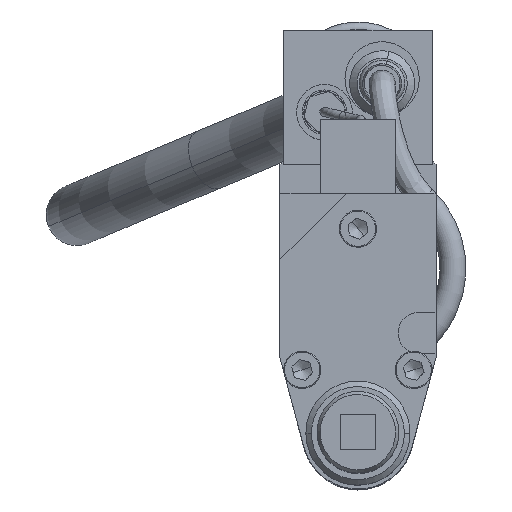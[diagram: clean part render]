
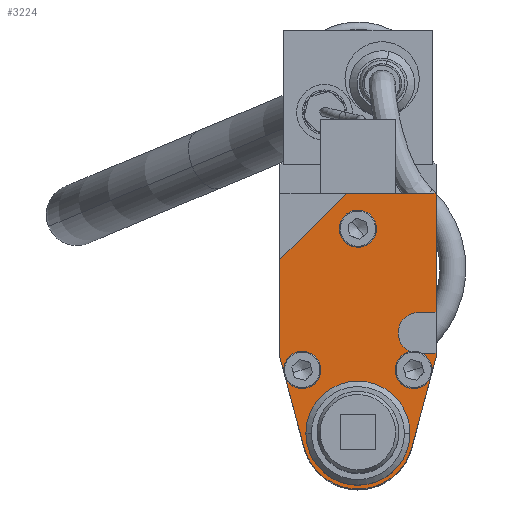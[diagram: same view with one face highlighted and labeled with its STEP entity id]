
A CAD part, top view. The second image highlights one B-rep face of the part: STEP entity #3224.
In plain terms, the highlighted planar face has unit normal (0, 0, 1).
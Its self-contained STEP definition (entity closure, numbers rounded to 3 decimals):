
#3033=CARTESIAN_POINT('Axis2P3D Location',(-15.,-26.54,353.1)) ;
#3037=CARTESIAN_POINT('Vertex',(-11.965,-28.198,353.1)) ;
#3039=CARTESIAN_POINT('Vertex',(-18.035,-24.882,353.1)) ;
#3059=CARTESIAN_POINT('Axis2P3D Location',(-15.,-26.54,353.1)) ;
#3071=CARTESIAN_POINT('Axis2P3D Location',(0.,-43.54,353.1)) ;
#3076=CARTESIAN_POINT('Line Origine',(18.65,-22.04,353.1)) ;
#3080=CARTESIAN_POINT('Vertex',(16.3,-22.04,353.1)) ;
#3082=CARTESIAN_POINT('Vertex',(21.,-22.04,353.1)) ;
#3085=CARTESIAN_POINT('Axis2P3D Location',(16.3,-16.54,353.1)) ;
#3089=CARTESIAN_POINT('Vertex',(16.3,-11.04,353.1)) ;
#3092=CARTESIAN_POINT('Line Origine',(18.65,-11.04,353.1)) ;
#3096=CARTESIAN_POINT('Vertex',(21.,-11.04,353.1)) ;
#3099=CARTESIAN_POINT('Line Origine',(21.,5.01,353.1)) ;
#3103=CARTESIAN_POINT('Vertex',(21.,21.06,353.1)) ;
#3106=CARTESIAN_POINT('Line Origine',(9.,21.06,353.1)) ;
#3110=CARTESIAN_POINT('Vertex',(-3.,21.06,353.1)) ;
#3113=CARTESIAN_POINT('Line Origine',(-12.,12.06,353.1)) ;
#3117=CARTESIAN_POINT('Vertex',(-21.,3.06,353.1)) ;
#3120=CARTESIAN_POINT('Line Origine',(-21.,-10.031,353.1)) ;
#3124=CARTESIAN_POINT('Vertex',(-21.,-23.122,353.1)) ;
#3127=CARTESIAN_POINT('Line Origine',(-17.744,-35.272,353.1)) ;
#3131=CARTESIAN_POINT('Vertex',(-14.489,-47.422,353.1)) ;
#3134=CARTESIAN_POINT('Axis2P3D Location',(0.,-43.54,353.1)) ;
#3138=CARTESIAN_POINT('Vertex',(14.489,-47.422,353.1)) ;
#3141=CARTESIAN_POINT('Line Origine',(17.744,-35.272,353.1)) ;
#3145=CARTESIAN_POINT('Vertex',(21.,-23.122,353.1)) ;
#3148=CARTESIAN_POINT('Line Origine',(21.,-22.581,353.1)) ;
#3170=CARTESIAN_POINT('Axis2P3D Location',(15.,-26.54,353.1)) ;
#3174=CARTESIAN_POINT('Vertex',(11.965,-24.882,353.1)) ;
#3176=CARTESIAN_POINT('Vertex',(18.035,-28.198,353.1)) ;
#3179=CARTESIAN_POINT('Axis2P3D Location',(15.,-26.54,353.1)) ;
#3188=CARTESIAN_POINT('Axis2P3D Location',(0.,11.46,353.1)) ;
#3192=CARTESIAN_POINT('Vertex',(-3.035,13.118,353.1)) ;
#3194=CARTESIAN_POINT('Vertex',(3.035,9.802,353.1)) ;
#3197=CARTESIAN_POINT('Axis2P3D Location',(0.,11.46,353.1)) ;
#3206=CARTESIAN_POINT('Axis2P3D Location',(0.,-43.54,353.1)) ;
#3210=CARTESIAN_POINT('Vertex',(14.,-43.54,353.1)) ;
#3212=CARTESIAN_POINT('Vertex',(-14.,-43.54,353.1)) ;
#3215=CARTESIAN_POINT('Axis2P3D Location',(0.,-43.54,353.1)) ;
#3034=DIRECTION('Axis2P3D Direction',(0.,0.,1.)) ;
#3060=DIRECTION('Axis2P3D Direction',(0.,0.,1.)) ;
#3072=DIRECTION('Axis2P3D Direction',(0.,0.,1.)) ;
#3073=DIRECTION('Axis2P3D XDirection',(1.,0.,0.)) ;
#3077=DIRECTION('Vector Direction',(1.,0.,0.)) ;
#3086=DIRECTION('Axis2P3D Direction',(0.,0.,1.)) ;
#3093=DIRECTION('Vector Direction',(-1.,0.,0.)) ;
#3100=DIRECTION('Vector Direction',(0.,-1.,0.)) ;
#3107=DIRECTION('Vector Direction',(1.,0.,0.)) ;
#3114=DIRECTION('Vector Direction',(-0.707,-0.707,0.)) ;
#3121=DIRECTION('Vector Direction',(0.,1.,0.)) ;
#3128=DIRECTION('Vector Direction',(-0.259,0.966,0.)) ;
#3135=DIRECTION('Axis2P3D Direction',(0.,0.,1.)) ;
#3142=DIRECTION('Vector Direction',(-0.259,-0.966,0.)) ;
#3149=DIRECTION('Vector Direction',(0.,-1.,0.)) ;
#3171=DIRECTION('Axis2P3D Direction',(0.,0.,1.)) ;
#3180=DIRECTION('Axis2P3D Direction',(0.,0.,1.)) ;
#3189=DIRECTION('Axis2P3D Direction',(0.,0.,1.)) ;
#3198=DIRECTION('Axis2P3D Direction',(0.,0.,1.)) ;
#3207=DIRECTION('Axis2P3D Direction',(0.,0.,1.)) ;
#3216=DIRECTION('Axis2P3D Direction',(0.,0.,1.)) ;
#3035=AXIS2_PLACEMENT_3D('Circle Axis2P3D',#3033,#3034,$) ;
#3061=AXIS2_PLACEMENT_3D('Circle Axis2P3D',#3059,#3060,$) ;
#3074=AXIS2_PLACEMENT_3D('Plane Axis2P3D',#3071,#3072,#3073) ;
#3087=AXIS2_PLACEMENT_3D('Circle Axis2P3D',#3085,#3086,$) ;
#3136=AXIS2_PLACEMENT_3D('Circle Axis2P3D',#3134,#3135,$) ;
#3172=AXIS2_PLACEMENT_3D('Circle Axis2P3D',#3170,#3171,$) ;
#3181=AXIS2_PLACEMENT_3D('Circle Axis2P3D',#3179,#3180,$) ;
#3190=AXIS2_PLACEMENT_3D('Circle Axis2P3D',#3188,#3189,$) ;
#3199=AXIS2_PLACEMENT_3D('Circle Axis2P3D',#3197,#3198,$) ;
#3208=AXIS2_PLACEMENT_3D('Circle Axis2P3D',#3206,#3207,$) ;
#3217=AXIS2_PLACEMENT_3D('Circle Axis2P3D',#3215,#3216,$) ;
#3154=ORIENTED_EDGE('',*,*,#3084,.F.) ;
#3155=ORIENTED_EDGE('',*,*,#3091,.F.) ;
#3156=ORIENTED_EDGE('',*,*,#3098,.F.) ;
#3157=ORIENTED_EDGE('',*,*,#3105,.F.) ;
#3158=ORIENTED_EDGE('',*,*,#3112,.F.) ;
#3159=ORIENTED_EDGE('',*,*,#3119,.T.) ;
#3160=ORIENTED_EDGE('',*,*,#3126,.F.) ;
#3161=ORIENTED_EDGE('',*,*,#3133,.F.) ;
#3162=ORIENTED_EDGE('',*,*,#3140,.F.) ;
#3163=ORIENTED_EDGE('',*,*,#3147,.F.) ;
#3164=ORIENTED_EDGE('',*,*,#3152,.F.) ;
#3167=ORIENTED_EDGE('',*,*,#3063,.F.) ;
#3168=ORIENTED_EDGE('',*,*,#3041,.F.) ;
#3185=ORIENTED_EDGE('',*,*,#3178,.F.) ;
#3186=ORIENTED_EDGE('',*,*,#3183,.F.) ;
#3203=ORIENTED_EDGE('',*,*,#3196,.F.) ;
#3204=ORIENTED_EDGE('',*,*,#3201,.F.) ;
#3221=ORIENTED_EDGE('',*,*,#3214,.F.) ;
#3222=ORIENTED_EDGE('',*,*,#3219,.F.) ;
#3169=FACE_BOUND('',#3166,.T.) ;
#3187=FACE_BOUND('',#3184,.T.) ;
#3205=FACE_BOUND('',#3202,.T.) ;
#3223=FACE_BOUND('',#3220,.T.) ;
#3078=VECTOR('Line Direction',#3077,1.) ;
#3094=VECTOR('Line Direction',#3093,1.) ;
#3101=VECTOR('Line Direction',#3100,1.) ;
#3108=VECTOR('Line Direction',#3107,1.) ;
#3115=VECTOR('Line Direction',#3114,1.) ;
#3122=VECTOR('Line Direction',#3121,1.) ;
#3129=VECTOR('Line Direction',#3128,1.) ;
#3143=VECTOR('Line Direction',#3142,1.) ;
#3150=VECTOR('Line Direction',#3149,1.) ;
#3224=ADVANCED_FACE('',(#3165,#3169,#3187,#3205,#3223),#3075,.T.) ;
#3036=CIRCLE('generated circle',#3035,3.459) ;
#3062=CIRCLE('generated circle',#3061,3.459) ;
#3088=CIRCLE('generated circle',#3087,5.5) ;
#3137=CIRCLE('generated circle',#3136,15.) ;
#3173=CIRCLE('generated circle',#3172,3.459) ;
#3182=CIRCLE('generated circle',#3181,3.459) ;
#3191=CIRCLE('generated circle',#3190,3.459) ;
#3200=CIRCLE('generated circle',#3199,3.459) ;
#3209=CIRCLE('generated circle',#3208,14.) ;
#3218=CIRCLE('generated circle',#3217,14.) ;
#3041=EDGE_CURVE('',#3038,#3040,#3036,.T.) ;
#3063=EDGE_CURVE('',#3040,#3038,#3062,.T.) ;
#3084=EDGE_CURVE('',#3081,#3083,#3079,.T.) ;
#3091=EDGE_CURVE('',#3090,#3081,#3088,.T.) ;
#3098=EDGE_CURVE('',#3097,#3090,#3095,.T.) ;
#3105=EDGE_CURVE('',#3104,#3097,#3102,.T.) ;
#3112=EDGE_CURVE('',#3111,#3104,#3109,.T.) ;
#3119=EDGE_CURVE('',#3111,#3118,#3116,.T.) ;
#3126=EDGE_CURVE('',#3125,#3118,#3123,.T.) ;
#3133=EDGE_CURVE('',#3132,#3125,#3130,.T.) ;
#3140=EDGE_CURVE('',#3139,#3132,#3137,.F.) ;
#3147=EDGE_CURVE('',#3146,#3139,#3144,.T.) ;
#3152=EDGE_CURVE('',#3083,#3146,#3151,.T.) ;
#3178=EDGE_CURVE('',#3175,#3177,#3173,.T.) ;
#3183=EDGE_CURVE('',#3177,#3175,#3182,.T.) ;
#3196=EDGE_CURVE('',#3193,#3195,#3191,.T.) ;
#3201=EDGE_CURVE('',#3195,#3193,#3200,.T.) ;
#3214=EDGE_CURVE('',#3211,#3213,#3209,.T.) ;
#3219=EDGE_CURVE('',#3213,#3211,#3218,.T.) ;
#3153=EDGE_LOOP('',(#3154,#3155,#3156,#3157,#3158,#3159,#3160,#3161,#3162,#3163,#3164)) ;
#3166=EDGE_LOOP('',(#3167,#3168)) ;
#3184=EDGE_LOOP('',(#3185,#3186)) ;
#3202=EDGE_LOOP('',(#3203,#3204)) ;
#3220=EDGE_LOOP('',(#3221,#3222)) ;
#3165=FACE_OUTER_BOUND('',#3153,.T.) ;
#3079=LINE('Line',#3076,#3078) ;
#3095=LINE('Line',#3092,#3094) ;
#3102=LINE('Line',#3099,#3101) ;
#3109=LINE('Line',#3106,#3108) ;
#3116=LINE('Line',#3113,#3115) ;
#3123=LINE('Line',#3120,#3122) ;
#3130=LINE('Line',#3127,#3129) ;
#3144=LINE('Line',#3141,#3143) ;
#3151=LINE('Line',#3148,#3150) ;
#3075=PLANE('Plane',#3074) ;
#3038=VERTEX_POINT('',#3037) ;
#3040=VERTEX_POINT('',#3039) ;
#3081=VERTEX_POINT('',#3080) ;
#3083=VERTEX_POINT('',#3082) ;
#3090=VERTEX_POINT('',#3089) ;
#3097=VERTEX_POINT('',#3096) ;
#3104=VERTEX_POINT('',#3103) ;
#3111=VERTEX_POINT('',#3110) ;
#3118=VERTEX_POINT('',#3117) ;
#3125=VERTEX_POINT('',#3124) ;
#3132=VERTEX_POINT('',#3131) ;
#3139=VERTEX_POINT('',#3138) ;
#3146=VERTEX_POINT('',#3145) ;
#3175=VERTEX_POINT('',#3174) ;
#3177=VERTEX_POINT('',#3176) ;
#3193=VERTEX_POINT('',#3192) ;
#3195=VERTEX_POINT('',#3194) ;
#3211=VERTEX_POINT('',#3210) ;
#3213=VERTEX_POINT('',#3212) ;
